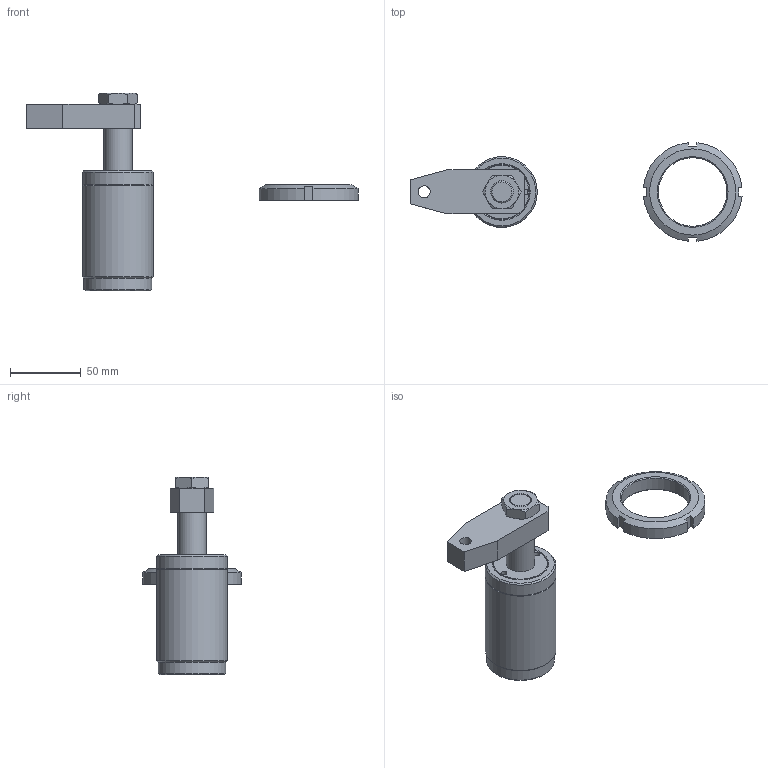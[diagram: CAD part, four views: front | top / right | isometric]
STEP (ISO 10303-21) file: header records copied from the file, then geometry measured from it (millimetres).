
FILE_DESCRIPTION(/* description */ ('Unknown'),/* implementation_level */ '2;1');
FILE_NAME(/* name */ 'HSC-TB32S-A',/* time_stamp */ '2022-08-26T04:12:25+08:00',/* author */ ('Unknown'),/* organization */ ('Unknown'),/* preprocessor_version */ 'ST-DEVELOPER v16.7',/* originating_system */ 'DEX',/* authorisation */ $);
FILE_SCHEMA (('AUTOMOTIVE_DESIGN {1 0 10303 214 3 1 1}'));
Length unit declared in the file: millimetre
Products named in the file (5): HSC-TB32S-A; HSC-3202-S-AXLE CENTRE; HSC-TB32S-CYLINDER; HSC-TB32-Nut; HSC-32S-A
Assembly tree (4 placements, depth 2):
  HSC-TB32S-A
    HSC-3202-S-AXLE CENTRE
    HSC-TB32S-CYLINDER
    HSC-TB32-Nut
    HSC-32S-A
Bounding box: 234.87 x 69.74 x 140 mm (x, y, z)
Volume: 214581.3 mm3; surface area: 49632.3 mm2
Topology: 4 solids, 4 shells, 95 faces, 209 edges, 133 vertices
Faces by surface type: plane 45, cone 27, cylinder 20, torus 3
Full cylindrical faces by diameter (mm): 4 x2, 8.5 x1, 9.147 x2, 16 x2, 17 x1, 20 x2, 32 x2, 48 x1, 48.5 x1, 50 x2
Entity records: 3139 total; most frequent: CARTESIAN_POINT 496, DIRECTION 396, ORIENTED_EDGE 326, AXIS2_PLACEMENT_3D 169, EDGE_CURVE 163, EDGE_LOOP 146, FACE_BOUND 146, VERTEX_POINT 121
